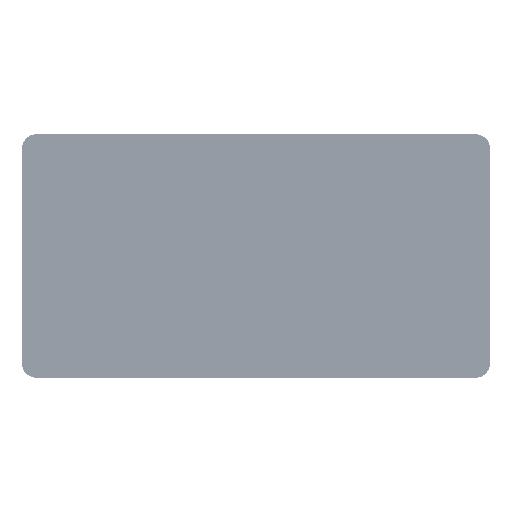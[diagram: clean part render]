
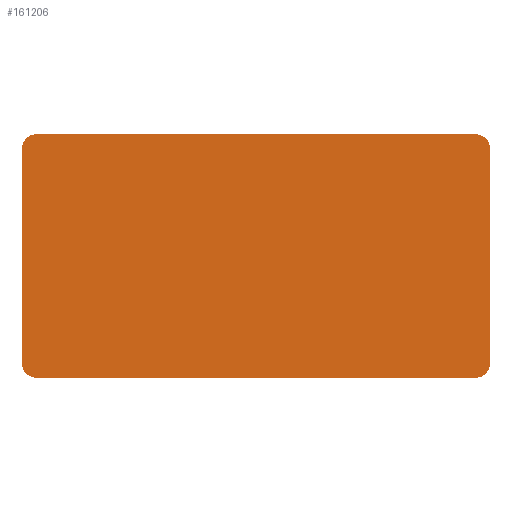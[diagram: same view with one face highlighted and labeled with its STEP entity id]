
A CAD part, front view. The second image highlights one B-rep face of the part: STEP entity #161206.
In plain terms, the highlighted planar face has unit normal (0, -1, 0).
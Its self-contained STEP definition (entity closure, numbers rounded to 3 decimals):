
#160847 = VERTEX_POINT ( 'NONE', #241679 ) ;
#160857 = EDGE_CURVE ( 'NONE', #160847, #160860, #241761, .T. ) ;
#160860 = VERTEX_POINT ( 'NONE', #241757 ) ;
#160936 = EDGE_CURVE ( 'NONE', #161068, #160937, #241801, .T. ) ;
#160937 = VERTEX_POINT ( 'NONE', #241800 ) ;
#160947 = EDGE_CURVE ( 'NONE', #160860, #160949, #241876, .T. ) ;
#160949 = VERTEX_POINT ( 'NONE', #241875 ) ;
#161026 = EDGE_CURVE ( 'NONE', #160937, #161032, #241993, .T. ) ;
#161032 = VERTEX_POINT ( 'NONE', #241979 ) ;
#161066 = EDGE_CURVE ( 'NONE', #160949, #161068, #242057, .T. ) ;
#161068 = VERTEX_POINT ( 'NONE', #242049 ) ;
#161124 = EDGE_CURVE ( 'NONE', #161032, #161131, #242204, .T. ) ;
#161131 = VERTEX_POINT ( 'NONE', #242202 ) ;
#161206 = ADVANCED_FACE ( 'NONE', ( #242316 ), #242307, .T. ) ;
#161213 = EDGE_LOOP ( 'NONE', ( #161218, #161224, #161230, #161234, #161305, #161308, #161311, #161314 ) ) ;
#161218 = ORIENTED_EDGE ( 'NONE', *, *, #161349, .F. ) ;
#161224 = ORIENTED_EDGE ( 'NONE', *, *, #161252, .F. ) ;
#161230 = ORIENTED_EDGE ( 'NONE', *, *, #161124, .F. ) ;
#161234 = ORIENTED_EDGE ( 'NONE', *, *, #161026, .F. ) ;
#161252 = EDGE_CURVE ( 'NONE', #161131, #161254, #242355, .T. ) ;
#161254 = VERTEX_POINT ( 'NONE', #242346 ) ;
#161305 = ORIENTED_EDGE ( 'NONE', *, *, #160936, .F. ) ;
#161308 = ORIENTED_EDGE ( 'NONE', *, *, #161066, .F. ) ;
#161311 = ORIENTED_EDGE ( 'NONE', *, *, #160947, .F. ) ;
#161314 = ORIENTED_EDGE ( 'NONE', *, *, #160857, .F. ) ;
#161349 = EDGE_CURVE ( 'NONE', #161254, #160847, #242541, .T. ) ;
#241679 = CARTESIAN_POINT ( 'NONE',  ( 23.001, -4.75, -12.75 ) ) ;
#241757 = CARTESIAN_POINT ( 'NONE',  ( -23.001, -4.75, -12.75 ) ) ;
#241758 = DIRECTION ( 'NONE',  ( -1., 0., 0. ) ) ;
#241759 = VECTOR ( 'NONE', #241758, 39.37 ) ;
#241760 = CARTESIAN_POINT ( 'NONE',  ( 23.001, -4.75, -12.75 ) ) ;
#241761 = LINE ( 'NONE', #241760, #241759 ) ;
#241800 = CARTESIAN_POINT ( 'NONE',  ( -23.001, -4.75, 12.75 ) ) ;
#241801 = B_SPLINE_CURVE_WITH_KNOTS ( 'NONE', 3,
 ( #241911, #241910, #241909, #241908, #241907, #241905, #241903, #241900, #241898 ),
 .UNSPECIFIED., .F., .F.,
 ( 4, 1, 1, 1, 1, 1, 4 ),
 ( -0.785, -0.589, -0.392, 0., 0.392, 0.589, 0.785 ),
 .UNSPECIFIED. ) ;
#241863 = CARTESIAN_POINT ( 'NONE',  ( -24.089, -4.75, -12.339 ) ) ;
#241865 = CARTESIAN_POINT ( 'NONE',  ( -23.673, -4.75, -12.616 ) ) ;
#241866 = CARTESIAN_POINT ( 'NONE',  ( -23.295, -4.75, -12.731 ) ) ;
#241867 = CARTESIAN_POINT ( 'NONE',  ( -23.099, -4.75, -12.75 ) ) ;
#241868 = CARTESIAN_POINT ( 'NONE',  ( -23.001, -4.75, -12.75 ) ) ;
#241875 = CARTESIAN_POINT ( 'NONE',  ( -24.5, -4.75, -11.251 ) ) ;
#241876 = B_SPLINE_CURVE_WITH_KNOTS ( 'NONE', 3,
 ( #241868, #241867, #241866, #241865, #241863, #241965, #241964, #241963, #241961 ),
 .UNSPECIFIED., .F., .F.,
 ( 4, 1, 1, 1, 1, 1, 4 ),
 ( -0.785, -0.589, -0.392, 0., 0.392, 0.589, 0.785 ),
 .UNSPECIFIED. ) ;
#241898 = CARTESIAN_POINT ( 'NONE',  ( -23.001, -4.75, 12.75 ) ) ;
#241900 = CARTESIAN_POINT ( 'NONE',  ( -23.099, -4.75, 12.75 ) ) ;
#241903 = CARTESIAN_POINT ( 'NONE',  ( -23.295, -4.75, 12.731 ) ) ;
#241905 = CARTESIAN_POINT ( 'NONE',  ( -23.673, -4.75, 12.616 ) ) ;
#241907 = CARTESIAN_POINT ( 'NONE',  ( -24.089, -4.75, 12.339 ) ) ;
#241908 = CARTESIAN_POINT ( 'NONE',  ( -24.366, -4.75, 11.923 ) ) ;
#241909 = CARTESIAN_POINT ( 'NONE',  ( -24.481, -4.75, 11.545 ) ) ;
#241910 = CARTESIAN_POINT ( 'NONE',  ( -24.5, -4.75, 11.349 ) ) ;
#241911 = CARTESIAN_POINT ( 'NONE',  ( -24.5, -4.75, 11.251 ) ) ;
#241961 = CARTESIAN_POINT ( 'NONE',  ( -24.5, -4.75, -11.251 ) ) ;
#241963 = CARTESIAN_POINT ( 'NONE',  ( -24.5, -4.75, -11.349 ) ) ;
#241964 = CARTESIAN_POINT ( 'NONE',  ( -24.481, -4.75, -11.545 ) ) ;
#241965 = CARTESIAN_POINT ( 'NONE',  ( -24.366, -4.75, -11.923 ) ) ;
#241979 = CARTESIAN_POINT ( 'NONE',  ( 23.001, -4.75, 12.75 ) ) ;
#241980 = DIRECTION ( 'NONE',  ( 1., 0., 0. ) ) ;
#241981 = VECTOR ( 'NONE', #241980, 39.37 ) ;
#241983 = CARTESIAN_POINT ( 'NONE',  ( -23.001, -4.75, 12.75 ) ) ;
#241993 = LINE ( 'NONE', #241983, #241981 ) ;
#242049 = CARTESIAN_POINT ( 'NONE',  ( -24.5, -4.75, 11.251 ) ) ;
#242051 = DIRECTION ( 'NONE',  ( 0., 0., 1. ) ) ;
#242053 = VECTOR ( 'NONE', #242051, 39.37 ) ;
#242055 = CARTESIAN_POINT ( 'NONE',  ( -24.5, -4.75, -11.251 ) ) ;
#242057 = LINE ( 'NONE', #242055, #242053 ) ;
#242188 = CARTESIAN_POINT ( 'NONE',  ( 24.481, -4.75, 11.545 ) ) ;
#242190 = CARTESIAN_POINT ( 'NONE',  ( 24.366, -4.75, 11.923 ) ) ;
#242192 = CARTESIAN_POINT ( 'NONE',  ( 24.089, -4.75, 12.339 ) ) ;
#242193 = CARTESIAN_POINT ( 'NONE',  ( 23.673, -4.75, 12.616 ) ) ;
#242194 = CARTESIAN_POINT ( 'NONE',  ( 23.295, -4.75, 12.731 ) ) ;
#242195 = CARTESIAN_POINT ( 'NONE',  ( 23.099, -4.75, 12.75 ) ) ;
#242196 = CARTESIAN_POINT ( 'NONE',  ( 23.001, -4.75, 12.75 ) ) ;
#242202 = CARTESIAN_POINT ( 'NONE',  ( 24.5, -4.75, 11.251 ) ) ;
#242204 = B_SPLINE_CURVE_WITH_KNOTS ( 'NONE', 3,
 ( #242196, #242195, #242194, #242193, #242192, #242190, #242188, #242291, #242289 ),
 .UNSPECIFIED., .F., .F.,
 ( 4, 1, 1, 1, 1, 1, 4 ),
 ( -0.785, -0.589, -0.392, 0., 0.392, 0.589, 0.785 ),
 .UNSPECIFIED. ) ;
#242289 = CARTESIAN_POINT ( 'NONE',  ( 24.5, -4.75, 11.251 ) ) ;
#242291 = CARTESIAN_POINT ( 'NONE',  ( 24.5, -4.75, 11.349 ) ) ;
#242303 = DIRECTION ( 'NONE',  ( 0., 0., -1. ) ) ;
#242304 = DIRECTION ( 'NONE',  ( 0., -1., 0. ) ) ;
#242305 = CARTESIAN_POINT ( 'NONE',  ( -17.5, -4.75, 11.144 ) ) ;
#242306 = AXIS2_PLACEMENT_3D ( 'NONE', #242305, #242304, #242303 ) ;
#242307 = PLANE ( 'NONE',  #242306 ) ;
#242316 = FACE_OUTER_BOUND ( 'NONE', #161213, .T. ) ;
#242346 = CARTESIAN_POINT ( 'NONE',  ( 24.5, -4.75, -11.251 ) ) ;
#242351 = DIRECTION ( 'NONE',  ( 0., 0., -1. ) ) ;
#242352 = VECTOR ( 'NONE', #242351, 39.37 ) ;
#242354 = CARTESIAN_POINT ( 'NONE',  ( 24.5, -4.75, -11.251 ) ) ;
#242355 = LINE ( 'NONE', #242354, #242352 ) ;
#242523 = CARTESIAN_POINT ( 'NONE',  ( 23.099, -4.75, -12.75 ) ) ;
#242524 = CARTESIAN_POINT ( 'NONE',  ( 23.295, -4.75, -12.731 ) ) ;
#242525 = CARTESIAN_POINT ( 'NONE',  ( 23.673, -4.75, -12.616 ) ) ;
#242526 = CARTESIAN_POINT ( 'NONE',  ( 24.089, -4.75, -12.339 ) ) ;
#242528 = CARTESIAN_POINT ( 'NONE',  ( 24.366, -4.75, -11.923 ) ) ;
#242531 = CARTESIAN_POINT ( 'NONE',  ( 24.481, -4.75, -11.545 ) ) ;
#242533 = CARTESIAN_POINT ( 'NONE',  ( 24.5, -4.75, -11.349 ) ) ;
#242534 = CARTESIAN_POINT ( 'NONE',  ( 24.5, -4.75, -11.251 ) ) ;
#242541 = B_SPLINE_CURVE_WITH_KNOTS ( 'NONE', 3,
 ( #242534, #242533, #242531, #242528, #242526, #242525, #242524, #242523, #242617 ),
 .UNSPECIFIED., .F., .F.,
 ( 4, 1, 1, 1, 1, 1, 4 ),
 ( -0.785, -0.589, -0.392, 0., 0.392, 0.589, 0.785 ),
 .UNSPECIFIED. ) ;
#242617 = CARTESIAN_POINT ( 'NONE',  ( 23.001, -4.75, -12.75 ) ) ;
